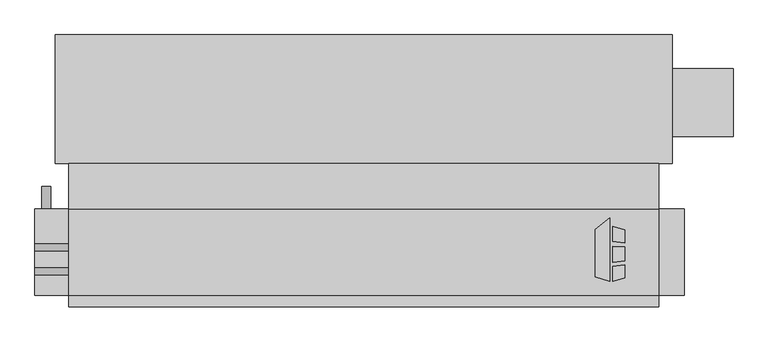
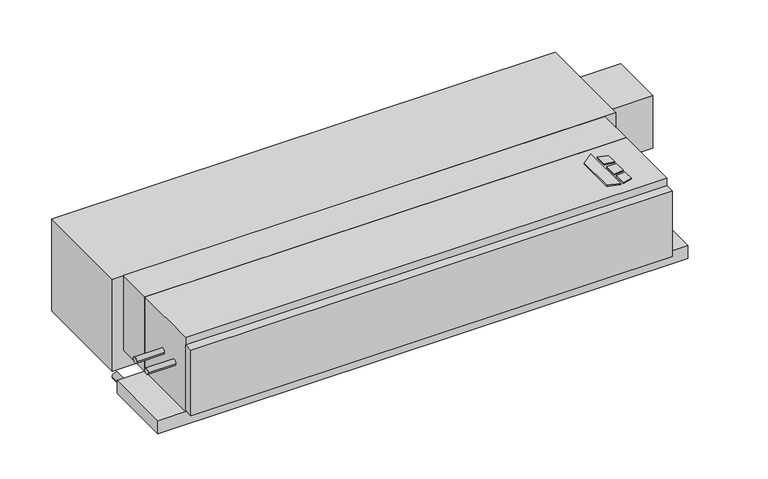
"""IFC4 building model written with IfcOpenShell, lengths in millimetres: proxy geometry, Concealed_Horizontal_Fan_Coil_Unit_With_Plenum_-_CPY_-_IEC_-_2-Pipe_Cool-EHeat_LH_2022 : Size 10 - 277v/60Hz/1Ph - 4 Row 8.0kW."""

from ifc_helpers import new_model, si_unit, point, frame, frame_2d, origin, origin_with_axes, place, context, project, spatial, polyline, circle_curve, trimmed, segment, composite_curve, outline, extrude, source, transform, mapped, element, save


def mechanical_equipment_cdbdb4ef(model_context):
    return source(origin(), model_context, "Body", "SweptSolid", [
        extrude(outline(polyline([(671.2019761, -186.6953476), (703.7602728, -161.2580184), (703.7602728, -303.2125), (671.2019761, -292.9929201), (671.2019761, -186.6953476)])), origin_with_axes(), (0.0, 0.0, 1.0), 3.175),
        extrude(outline(polyline([(710.5186058, -214.567352), (710.5186058, -180.0874379), (736.6, -188.2740115), (736.6, -217.7697446), (710.5186058, -214.567352)])), origin_with_axes(), (0.0, 0.0, 1.0), 3.175),
        extrude(outline(polyline([(736.6, -296.2240115), (710.5186058, -303.2125), (710.5186058, -269.9911996), (736.6, -266.4493564), (736.6, -296.2240115)])), origin_with_axes(), (0.0, 0.0, 1.0), 3.175),
        extrude(outline(polyline([(736.6, -226.8513277), (736.6, -258.101483), (710.5186058, -260.842748), (710.5186058, -224.9850378), (736.6, -226.8513277)])), origin_with_axes(), (0.0, 0.0, 1.0), 3.175),
        extrude(outline(composite_curve([segment(trimmed(circle_curve(frame_2d((-280.9875, -104.775)), 7.9375), [point((-288.925, -104.775))], [point((-273.05, -104.775))], False, "CARTESIAN"), True, "CONTINUOUS"), segment(trimmed(circle_curve(frame_2d((-280.9875, -104.775)), 7.9375), [point((-273.05, -104.775))], [point((-288.925, -104.775))], False, "CARTESIAN"), True, "CONTINUOUS")], self_intersect=False)), frame((-584.2, 0.0, 0.0), z_axis=(1.0, 0.0, 0.0), x_axis=(0.0, 1.0, 0.0)), (0.0, 0.0, 1.0), 76.2),
        extrude(outline(composite_curve([segment(trimmed(circle_curve(frame_2d((-227.0125, -104.775)), 7.9375), [point((-234.95, -104.775))], [point((-219.075, -104.775))], False, "CARTESIAN"), True, "CONTINUOUS"), segment(trimmed(circle_curve(frame_2d((-227.0125, -104.775)), 7.9375), [point((-219.075, -104.775))], [point((-234.95, -104.775))], False, "CARTESIAN"), True, "CONTINUOUS")], self_intersect=False)), frame((-584.2, 0.0, 0.0), z_axis=(1.0, 0.0, 0.0), x_axis=(0.0, 1.0, 0.0)), (0.0, 0.0, 1.0), 76.2),
        extrude(outline(composite_curve([segment(trimmed(circle_curve(frame_2d((-241.3, -558.8)), 9.525), [point((-241.3, -568.325))], [point((-241.3, -549.275))], False, "CARTESIAN"), True, "CONTINUOUS"), segment(trimmed(circle_curve(frame_2d((-241.3, -558.8)), 9.525), [point((-241.3, -549.275))], [point((-241.3, -568.325))], False, "CARTESIAN"), True, "CONTINUOUS")], self_intersect=False)), frame((0.0, -141.2875, 0.0), z_axis=(0.0, 1.0, 0.0), x_axis=(0.0, 0.0, 1.0)), (0.0, 0.0, 1.0), 50.8),
        extrude(outline(polyline([(-508.0, -39.6875), (812.8, -39.6875), (812.8, -141.2875), (-508.0, -141.2875), (-508.0, -39.6875)])), frame((0.0, 0.0, -215.9), z_axis=(0.0, 0.0, 1.0), x_axis=(1.0, 0.0, 0.0)), (0.0, 0.0, 1.0), 215.9),
        extrude(outline(polyline([(812.8, -360.3625), (-508.0, -360.3625), (-508.0, -334.9625), (812.8, -334.9625), (812.8, -360.3625)])), frame((0.0, 0.0, -212.725), z_axis=(0.0, 0.0, 1.0), x_axis=(1.0, 0.0, 0.0)), (0.0, 0.0, 1.0), 190.5),
        extrude(outline(polyline([(979.4875, 173.0375), (979.4875, 20.6375), (842.9625, 20.6375), (842.9625, 173.0375), (979.4875, 173.0375)])), frame((0.0, 0.0, -187.325), z_axis=(0.0, 0.0, 1.0), x_axis=(1.0, 0.0, 0.0)), (0.0, 0.0, 1.0), 152.4),
        extrude(outline(polyline([(-538.1625, 249.2375), (842.9625, 249.2375), (842.9625, -39.6875), (-538.1625, -39.6875), (-538.1625, 249.2375)])), frame((0.0, 0.0, -266.7), z_axis=(0.0, 0.0, 1.0), x_axis=(1.0, 0.0, 0.0)), (0.0, 0.0, 1.0), 266.7),
        extrude(outline(polyline([(812.8, -141.2875), (812.8, -334.9625), (-508.0, -334.9625), (-508.0, -141.2875), (812.8, -141.2875)])), frame((0.0, 0.0, -215.9), z_axis=(0.0, 0.0, 1.0), x_axis=(1.0, 0.0, 0.0)), (0.0, 0.0, 1.0), 215.9),
        extrude(outline(polyline([(869.95, -141.2875), (869.95, -334.9625), (-584.2, -334.9625), (-584.2, -141.2875), (869.95, -141.2875)])), frame((0.0, 0.0, -254.0), z_axis=(0.0, 0.0, 1.0), x_axis=(1.0, 0.0, 0.0)), (0.0, 0.0, 1.0), 38.1),
    ])


if __name__ == "__main__":
    model = new_model("IFC4")
    model_context = context("Model", 3, world=origin())
    ifc_project = project(units=[si_unit("LENGTHUNIT", "METRE", prefix="MILLI")], contexts=[model_context])
    site = spatial("IfcSite", under=ifc_project)
    building = spatial("IfcBuilding", under=site)
    placement = place(None, origin())
    mechanical_equipment_shape = mechanical_equipment_cdbdb4ef(model_context)
    element("IfcBuildingElementProxy", 1, Name="Concealed_Horizontal_Fan_Coil_Unit_With_Plenum_-_CPY_-_IEC_-_2-Pipe_Cool-EHeat_LH_2022 : Size 10 - 277v/60Hz/1Ph - 4 Row 8.0kW", ObjectType="Concealed_Horizontal_Fan_Coil_Unit_With_Plenum_-_CPY_-_IEC_-_2-Pipe_Cool-EHeat_LH_2022 : Size 10 - 277v/60Hz/1Ph - 4 Row 8.0kW", at=placement, inside=building, context=model_context, shape_type="MappedRepresentation", body=[
        mapped(mechanical_equipment_shape, transform((0.0, 0.0, 0.0), x_axis=(1.0, 0.0, 0.0), y_axis=(0.0, 1.0, 0.0), z_axis=(0.0, 0.0, 1.0))),
    ])
    save(model, "model.ifc")
